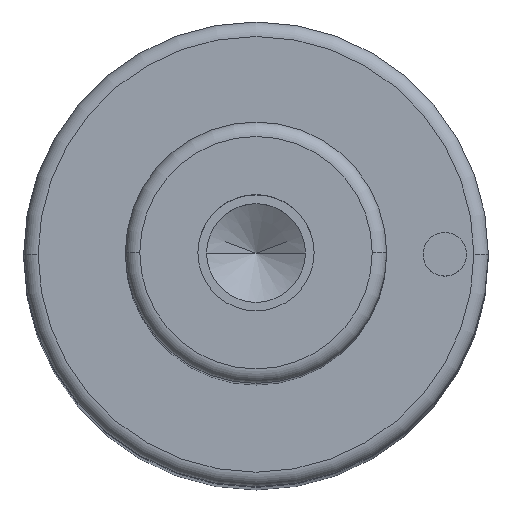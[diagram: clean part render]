
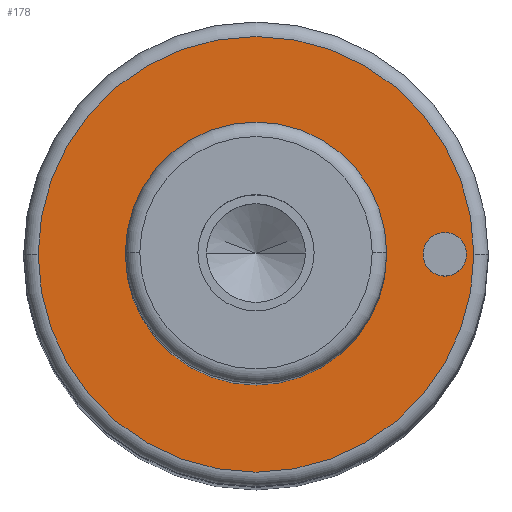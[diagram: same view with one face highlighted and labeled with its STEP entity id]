
A CAD part, top view. The second image highlights one B-rep face of the part: STEP entity #178.
In plain terms, the highlighted planar face has unit normal (0, 0, 1).
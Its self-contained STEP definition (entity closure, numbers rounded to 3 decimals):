
#105=PLANE('',#866);
#115=FACE_BOUND('',#283,.T.);
#116=FACE_BOUND('',#284,.T.);
#117=FACE_BOUND('',#285,.T.);
#178=ADVANCED_FACE('',(#115,#116,#117),#105,.T.);
#283=EDGE_LOOP('',(#473,#474));
#284=EDGE_LOOP('',(#475,#476));
#285=EDGE_LOOP('',(#477,#478));
#333=CIRCLE('',#834,9.);
#334=CIRCLE('',#836,9.);
#338=CIRCLE('',#841,15.);
#339=CIRCLE('',#843,15.);
#351=CIRCLE('',#864,1.5);
#352=CIRCLE('',#865,1.5);
#473=ORIENTED_EDGE('',*,*,#666,.F.);
#474=ORIENTED_EDGE('',*,*,#667,.F.);
#475=ORIENTED_EDGE('',*,*,#685,.F.);
#476=ORIENTED_EDGE('',*,*,#686,.F.);
#477=ORIENTED_EDGE('',*,*,#662,.T.);
#478=ORIENTED_EDGE('',*,*,#660,.T.);
#590=VERTEX_POINT('',#1233);
#591=VERTEX_POINT('',#1235);
#592=VERTEX_POINT('',#1241);
#595=VERTEX_POINT('',#1246);
#604=VERTEX_POINT('',#1285);
#605=VERTEX_POINT('',#1286);
#660=EDGE_CURVE('',#591,#590,#333,.T.);
#662=EDGE_CURVE('',#590,#591,#334,.T.);
#666=EDGE_CURVE('',#595,#592,#338,.T.);
#667=EDGE_CURVE('',#592,#595,#339,.T.);
#685=EDGE_CURVE('',#604,#605,#351,.T.);
#686=EDGE_CURVE('',#605,#604,#352,.T.);
#834=AXIS2_PLACEMENT_3D('',#1234,#985,#986);
#836=AXIS2_PLACEMENT_3D('',#1238,#990,#991);
#841=AXIS2_PLACEMENT_3D('',#1247,#1000,#1001);
#843=AXIS2_PLACEMENT_3D('',#1249,#1004,#1005);
#864=AXIS2_PLACEMENT_3D('',#1284,#1052,#1053);
#865=AXIS2_PLACEMENT_3D('',#1287,#1054,#1055);
#866=AXIS2_PLACEMENT_3D('',#1288,#1056,#1057);
#985=DIRECTION('',(0.,0.,-1.));
#986=DIRECTION('',(0.,1.,0.));
#990=DIRECTION('',(0.,0.,-1.));
#991=DIRECTION('',(0.,-1.,0.));
#1000=DIRECTION('',(0.,0.,-1.));
#1001=DIRECTION('',(0.,1.,0.));
#1004=DIRECTION('',(0.,0.,-1.));
#1005=DIRECTION('',(0.,-1.,0.));
#1052=DIRECTION('',(0.,0.,1.));
#1053=DIRECTION('',(0.,1.,0.));
#1054=DIRECTION('',(0.,0.,1.));
#1055=DIRECTION('',(0.,-1.,0.));
#1056=DIRECTION('',(0.,0.,1.));
#1057=DIRECTION('',(0.,-1.,0.));
#1233=CARTESIAN_POINT('',(-9.,0.,130.));
#1234=CARTESIAN_POINT('',(0.,0.,130.));
#1235=CARTESIAN_POINT('',(9.,0.,130.));
#1238=CARTESIAN_POINT('',(0.,0.,130.));
#1241=CARTESIAN_POINT('',(-15.,0.,130.));
#1246=CARTESIAN_POINT('',(15.,0.,130.));
#1247=CARTESIAN_POINT('',(0.,0.,130.));
#1249=CARTESIAN_POINT('',(0.,0.,130.));
#1284=CARTESIAN_POINT('',(13.,0.,130.));
#1285=CARTESIAN_POINT('',(11.5,0.,130.));
#1286=CARTESIAN_POINT('',(14.5,0.,130.));
#1287=CARTESIAN_POINT('',(13.,0.,130.));
#1288=CARTESIAN_POINT('',(0.,0.,130.));
